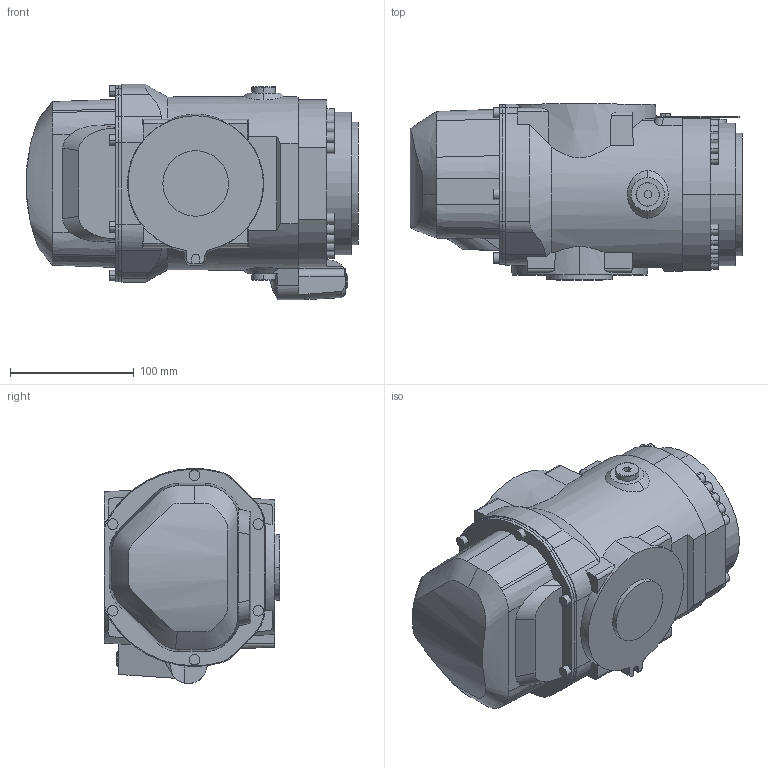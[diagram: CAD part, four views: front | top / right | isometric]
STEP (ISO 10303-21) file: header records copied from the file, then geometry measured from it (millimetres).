
FILE_DESCRIPTION (( 'STEP AP214' ), '1' );
FILE_NAME ('IRB5710-LID_70kg-270_OmniCore_rev00_LINK05_CAD.step', '2025-07-07T14:20:12', ( '' ), ( '' ), 'SwSTEP 2.0', 'SolidWorks 2024', '' );
FILE_SCHEMA (( 'AUTOMOTIVE_DESIGN' ));
Length unit declared in the file: millimetre
Products named in the file (1): IRB5710-LID_70kg-270_OmniCore_rev00_LINK05_CAD
Bounding box: 268.1 x 142 x 173.78 mm (x, y, z)
Volume: 3888248.6 mm3; surface area: 173128.2 mm2
Topology: 1 solids, 6 shells, 465 faces, 1206 edges, 795 vertices
Faces by surface type: plane 221, cylinder 155, cone 58, bspline 23, torus 8
Entity records: 18619 total; most frequent: CARTESIAN_POINT 7263, ORIENTED_EDGE 2404, DIRECTION 2254, EDGE_CURVE 1202, AXIS2_PLACEMENT_3D 819, VERTEX_POINT 795, VECTOR 616, LINE 616
